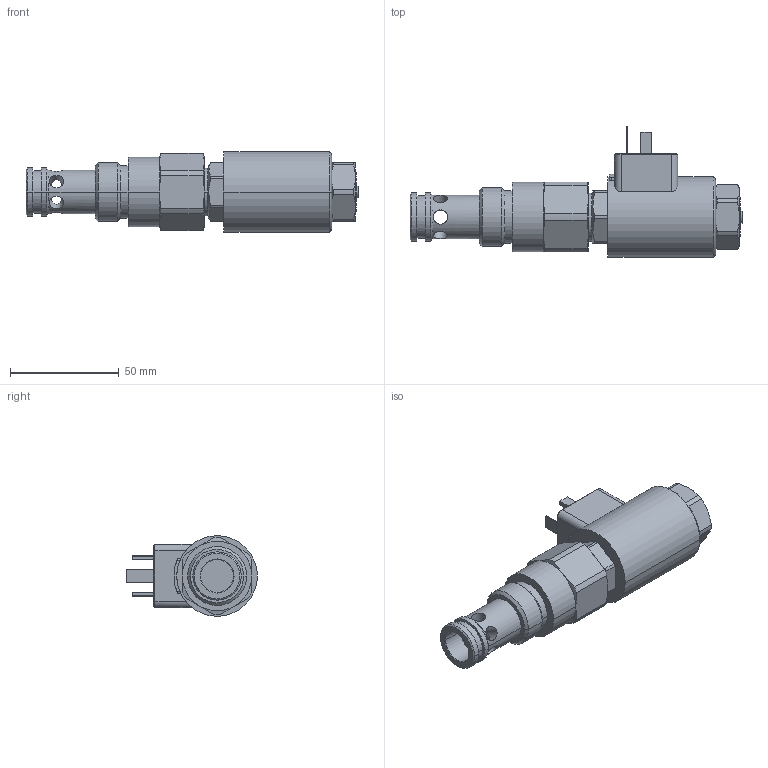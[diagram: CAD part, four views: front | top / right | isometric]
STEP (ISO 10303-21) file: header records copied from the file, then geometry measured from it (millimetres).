
FILE_DESCRIPTION((''),'2;1');
FILE_NAME('SR4P1_C2_GEN_ASM','2024-11-28T13:40:30',('l.soukupova'),(''),'CREO PARAMETRIC BY PTC INC, 2023254','CREO PARAMETRIC BY PTC INC, 2023254','');
FILE_SCHEMA(('AUTOMOTIVE_DESIGN { 1 0 10303 214 1 1 1 1 }'));
Length unit declared in the file: millimetre
Products named in the file (3): SR4P1_C2; C19B_E1; SR4P1_C2_GEN_ASM
Assembly tree (2 placements, depth 2):
  SR4P1_C2_GEN_ASM
    SR4P1_C2
    C19B_E1
Bounding box: 152.3 x 60 x 37 mm (x, y, z)
Volume: 118507.2 mm3; surface area: 27886.8 mm2
Topology: 2 solids, 2 shells, 188 faces, 453 edges, 281 vertices
Faces by surface type: plane 77, cylinder 71, cone 38, torus 2
Entity records: 9946 total; most frequent: CARTESIAN_POINT 2601, DIRECTION 915, ORIENTED_EDGE 902, PRESENTATION_STYLE_ASSIGNMENT 599, STYLED_ITEM 520, CURVE_STYLE 451, EDGE_CURVE 451, AXIS2_PLACEMENT_3D 345
